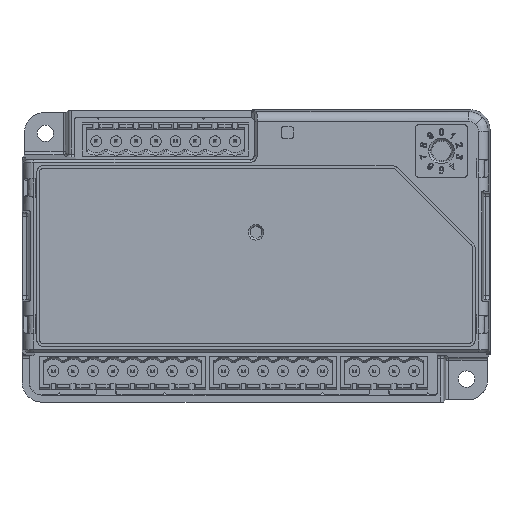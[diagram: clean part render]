
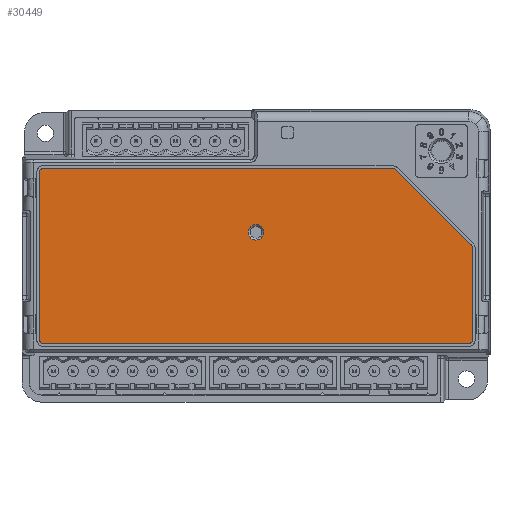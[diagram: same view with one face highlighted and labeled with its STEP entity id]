
A CAD part, top view. The second image highlights one B-rep face of the part: STEP entity #30449.
In plain terms, the highlighted planar face has unit normal (0, 0, 1).
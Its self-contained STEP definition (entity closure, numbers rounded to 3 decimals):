
#335 = EDGE_LOOP ( 'NONE', ( #51429, #12009, #41089, #10954, #40765, #57324, #50944, #31244, #33885, #39847 ) ) ;
#380 = CARTESIAN_POINT ( 'NONE',  ( 55.5, -21.5, 14. ) ) ;
#1074 = CARTESIAN_POINT ( 'NONE',  ( 0., 6.09, 14. ) ) ;
#1475 = CIRCLE ( 'NONE', #2387, 2. ) ;
#2387 = AXIS2_PLACEMENT_3D ( 'NONE', #1074, #19565, #23924 ) ;
#2454 = CARTESIAN_POINT ( 'NONE',  ( 55.5, 2.5, 14. ) ) ;
#2897 = CARTESIAN_POINT ( 'NONE',  ( -55.5, 22.5, 14. ) ) ;
#3013 = VERTEX_POINT ( 'NONE', #42692 ) ;
#3337 = CARTESIAN_POINT ( 'NONE',  ( -55.086, -22.5, 14. ) ) ;
#6295 = EDGE_CURVE ( 'NONE', #31924, #32504, #57076, .T. ) ;
#6508 = CARTESIAN_POINT ( 'NONE',  ( 35.253, 22.5, 14. ) ) ;
#6883 = CARTESIAN_POINT ( 'NONE',  ( -55.5, 22.086, 14. ) ) ;
#6943 = FACE_OUTER_BOUND ( 'NONE', #335, .T. ) ;
#7688 = VERTEX_POINT ( 'NONE', #46413 ) ;
#7995 = VECTOR ( 'NONE', #37831, 1000. ) ;
#8249 =( BOUNDED_CURVE ( )  B_SPLINE_CURVE ( 3, ( #19619, #40840, #28038, #14433 ),
 .UNSPECIFIED., .F., .F. ) 
 B_SPLINE_CURVE_WITH_KNOTS ( ( 4, 4 ),
 ( 2.357, 3.927 ),
 .UNSPECIFIED. ) 
 CURVE ( )  GEOMETRIC_REPRESENTATION_ITEM ( )  RATIONAL_B_SPLINE_CURVE ( ( 1., 0.805, 0.805, 1. ) ) 
 REPRESENTATION_ITEM ( '' )  );
#9540 = DIRECTION ( 'NONE',  ( 1., 0., 0. ) ) ;
#9992 = LINE ( 'NONE', #53209, #38351 ) ;
#10003 = VERTEX_POINT ( 'NONE', #25814 ) ;
#10223 = CARTESIAN_POINT ( 'NONE',  ( 55.002, 2.998, 14. ) ) ;
#10954 = ORIENTED_EDGE ( 'NONE', *, *, #48759, .T. ) ;
#11272 =( BOUNDED_CURVE ( )  B_SPLINE_CURVE ( 3, ( #33842, #29192, #6883, #25124 ),
 .UNSPECIFIED., .F., .T. ) 
 B_SPLINE_CURVE_WITH_KNOTS ( ( 4, 4 ),
 ( 2.357, 3.927 ),
 .UNSPECIFIED. ) 
 CURVE ( )  GEOMETRIC_REPRESENTATION_ITEM ( )  RATIONAL_B_SPLINE_CURVE ( ( 1., 0.805, 0.805, 1. ) ) 
 REPRESENTATION_ITEM ( '' )  );
#11371 = ORIENTED_EDGE ( 'NONE', *, *, #24398, .F. ) ;
#11668 = CIRCLE ( 'NONE', #47763, 2. ) ;
#11704 = VERTEX_POINT ( 'NONE', #52551 ) ;
#12009 = ORIENTED_EDGE ( 'NONE', *, *, #51391, .T. ) ;
#12135 = DIRECTION ( 'NONE',  ( 0., -1., 0. ) ) ;
#12574 = CARTESIAN_POINT ( 'NONE',  ( -55.5, -21.5, 14. ) ) ;
#13689 = VERTEX_POINT ( 'NONE', #10223 ) ;
#14433 = CARTESIAN_POINT ( 'NONE',  ( 55.5, -21.5, 14. ) ) ;
#15222 = EDGE_CURVE ( 'NONE', #10003, #31924, #8249, .T. ) ;
#15903 = LINE ( 'NONE', #2897, #21053 ) ;
#17471 = CARTESIAN_POINT ( 'NONE',  ( 55.5, 1.796, 14. ) ) ;
#17687 = VECTOR ( 'NONE', #44603, 1000. ) ;
#17839 = EDGE_CURVE ( 'NONE', #49249, #28501, #23442, .T. ) ;
#18512 = CARTESIAN_POINT ( 'NONE',  ( 0., 6.09, 14. ) ) ;
#19306 = CARTESIAN_POINT ( 'NONE',  ( 35.998, 22.002, 14. ) ) ;
#19565 = DIRECTION ( 'NONE',  ( 0., 0., 1. ) ) ;
#19619 = CARTESIAN_POINT ( 'NONE',  ( 54.5, -22.5, 14. ) ) ;
#20117 = CARTESIAN_POINT ( 'NONE',  ( 35.998, 22.002, 14. ) ) ;
#20159 = CARTESIAN_POINT ( 'NONE',  ( -54.5, -22.5, 14. ) ) ;
#20981 = CARTESIAN_POINT ( 'NONE',  ( -54.5, -22.5, 14. ) ) ;
#21053 = VECTOR ( 'NONE', #33596, 1000. ) ;
#22476 = EDGE_CURVE ( 'NONE', #28501, #10003, #33656, .T. ) ;
#23187 = ORIENTED_EDGE ( 'NONE', *, *, #38379, .F. ) ;
#23442 =( BOUNDED_CURVE ( )  B_SPLINE_CURVE ( 3, ( #12574, #52300, #3337, #20981 ),
 .UNSPECIFIED., .F., .F. ) 
 B_SPLINE_CURVE_WITH_KNOTS ( ( 4, 4 ),
 ( 2.357, 3.927 ),
 .UNSPECIFIED. ) 
 CURVE ( )  GEOMETRIC_REPRESENTATION_ITEM ( )  RATIONAL_B_SPLINE_CURVE ( ( 1., 0.805, 0.805, 1. ) ) 
 REPRESENTATION_ITEM ( '' )  );
#23924 = DIRECTION ( 'NONE',  ( 1., 0., 0. ) ) ;
#24398 = EDGE_CURVE ( 'NONE', #7688, #3013, #11668, .T. ) ;
#24866 = VERTEX_POINT ( 'NONE', #19306 ) ;
#25124 = CARTESIAN_POINT ( 'NONE',  ( -55.5, 21.5, 14. ) ) ;
#25814 = CARTESIAN_POINT ( 'NONE',  ( 54.5, -22.5, 14. ) ) ;
#25832 =( BOUNDED_CURVE ( )  B_SPLINE_CURVE ( 3, ( #20117, #33450, #6508, #46811 ),
 .UNSPECIFIED., .F., .F. ) 
 B_SPLINE_CURVE_WITH_KNOTS ( ( 4, 4 ),
 ( 2.749, 3.534 ),
 .UNSPECIFIED. ) 
 CURVE ( )  GEOMETRIC_REPRESENTATION_ITEM ( )  RATIONAL_B_SPLINE_CURVE ( ( 1., 0.949, 0.949, 1. ) ) 
 REPRESENTATION_ITEM ( '' )  );
#25976 = EDGE_CURVE ( 'NONE', #26363, #40040, #11272, .T. ) ;
#26363 = VERTEX_POINT ( 'NONE', #55527 ) ;
#26453 = CARTESIAN_POINT ( 'NONE',  ( 55.5, 2.253, 14. ) ) ;
#28038 = CARTESIAN_POINT ( 'NONE',  ( 55.5, -22.086, 14. ) ) ;
#28501 = VERTEX_POINT ( 'NONE', #20159 ) ;
#29192 = CARTESIAN_POINT ( 'NONE',  ( -55.086, 22.5, 14. ) ) ;
#29585 = EDGE_CURVE ( 'NONE', #11704, #26363, #15903, .T. ) ;
#30044 = VECTOR ( 'NONE', #33953, 1000. ) ;
#30449 = ADVANCED_FACE ( 'NONE', ( #6943, #38261 ), #55933, .F. ) ;
#31244 = ORIENTED_EDGE ( 'NONE', *, *, #17839, .T. ) ;
#31730 = DIRECTION ( 'NONE',  ( 0., -1., 0. ) ) ;
#31924 = VERTEX_POINT ( 'NONE', #380 ) ;
#32504 = VERTEX_POINT ( 'NONE', #56141 ) ;
#33082 = CARTESIAN_POINT ( 'NONE',  ( -55.5, -22.5, 14. ) ) ;
#33450 = CARTESIAN_POINT ( 'NONE',  ( 35.675, 22.325, 14. ) ) ;
#33596 = DIRECTION ( 'NONE',  ( -1., 0., 0. ) ) ;
#33656 = LINE ( 'NONE', #33082, #30044 ) ;
#33842 = CARTESIAN_POINT ( 'NONE',  ( -54.5, 22.5, 14. ) ) ;
#33885 = ORIENTED_EDGE ( 'NONE', *, *, #22476, .T. ) ;
#33953 = DIRECTION ( 'NONE',  ( 1., 0., 0. ) ) ;
#37538 = LINE ( 'NONE', #2454, #7995 ) ;
#37831 = DIRECTION ( 'NONE',  ( -0.707, 0.707, 0. ) ) ;
#37889 = EDGE_LOOP ( 'NONE', ( #23187, #11371 ) ) ;
#38051 = CARTESIAN_POINT ( 'NONE',  ( -55.5, -21.5, 14. ) ) ;
#38261 = FACE_BOUND ( 'NONE', #37889, .T. ) ;
#38351 = VECTOR ( 'NONE', #31730, 1000. ) ;
#38379 = EDGE_CURVE ( 'NONE', #3013, #7688, #1475, .T. ) ;
#38397 =( BOUNDED_CURVE ( )  B_SPLINE_CURVE ( 3, ( #17471, #26453, #40679, #49354 ),
 .UNSPECIFIED., .F., .F. ) 
 B_SPLINE_CURVE_WITH_KNOTS ( ( 4, 4 ),
 ( 2.749, 3.534 ),
 .UNSPECIFIED. ) 
 CURVE ( )  GEOMETRIC_REPRESENTATION_ITEM ( )  RATIONAL_B_SPLINE_CURVE ( ( 1., 0.949, 0.949, 1. ) ) 
 REPRESENTATION_ITEM ( '' )  );
#39847 = ORIENTED_EDGE ( 'NONE', *, *, #15222, .T. ) ;
#39969 = CARTESIAN_POINT ( 'NONE',  ( 55.5, -22.5, 14. ) ) ;
#40040 = VERTEX_POINT ( 'NONE', #50485 ) ;
#40679 = CARTESIAN_POINT ( 'NONE',  ( 55.325, 2.675, 14. ) ) ;
#40765 = ORIENTED_EDGE ( 'NONE', *, *, #29585, .T. ) ;
#40840 = CARTESIAN_POINT ( 'NONE',  ( 55.086, -22.5, 14. ) ) ;
#41089 = ORIENTED_EDGE ( 'NONE', *, *, #54165, .T. ) ;
#42692 = CARTESIAN_POINT ( 'NONE',  ( 2., 6.09, 14. ) ) ;
#44603 = DIRECTION ( 'NONE',  ( 0., 1., 0. ) ) ;
#46413 = CARTESIAN_POINT ( 'NONE',  ( -2., 6.09, 14. ) ) ;
#46811 = CARTESIAN_POINT ( 'NONE',  ( 34.796, 22.5, 14. ) ) ;
#46963 = CARTESIAN_POINT ( 'NONE',  ( 0., 0., 14. ) ) ;
#47239 = DIRECTION ( 'NONE',  ( 0., 0., -1. ) ) ;
#47763 = AXIS2_PLACEMENT_3D ( 'NONE', #18512, #54191, #9540 ) ;
#47974 = AXIS2_PLACEMENT_3D ( 'NONE', #46963, #47239, #12135 ) ;
#48615 = EDGE_CURVE ( 'NONE', #40040, #49249, #9992, .T. ) ;
#48759 = EDGE_CURVE ( 'NONE', #24866, #11704, #25832, .T. ) ;
#49249 = VERTEX_POINT ( 'NONE', #38051 ) ;
#49354 = CARTESIAN_POINT ( 'NONE',  ( 55.002, 2.998, 14. ) ) ;
#50485 = CARTESIAN_POINT ( 'NONE',  ( -55.5, 21.5, 14. ) ) ;
#50944 = ORIENTED_EDGE ( 'NONE', *, *, #48615, .T. ) ;
#51391 = EDGE_CURVE ( 'NONE', #32504, #13689, #38397, .T. ) ;
#51429 = ORIENTED_EDGE ( 'NONE', *, *, #6295, .T. ) ;
#52300 = CARTESIAN_POINT ( 'NONE',  ( -55.5, -22.086, 14. ) ) ;
#52551 = CARTESIAN_POINT ( 'NONE',  ( 34.796, 22.5, 14. ) ) ;
#53209 = CARTESIAN_POINT ( 'NONE',  ( -55.5, 22.5, 14. ) ) ;
#54165 = EDGE_CURVE ( 'NONE', #13689, #24866, #37538, .T. ) ;
#54191 = DIRECTION ( 'NONE',  ( 0., 0., 1. ) ) ;
#55527 = CARTESIAN_POINT ( 'NONE',  ( -54.5, 22.5, 14. ) ) ;
#55933 = PLANE ( 'NONE',  #47974 ) ;
#56141 = CARTESIAN_POINT ( 'NONE',  ( 55.5, 1.796, 14. ) ) ;
#57076 = LINE ( 'NONE', #39969, #17687 ) ;
#57324 = ORIENTED_EDGE ( 'NONE', *, *, #25976, .T. ) ;
